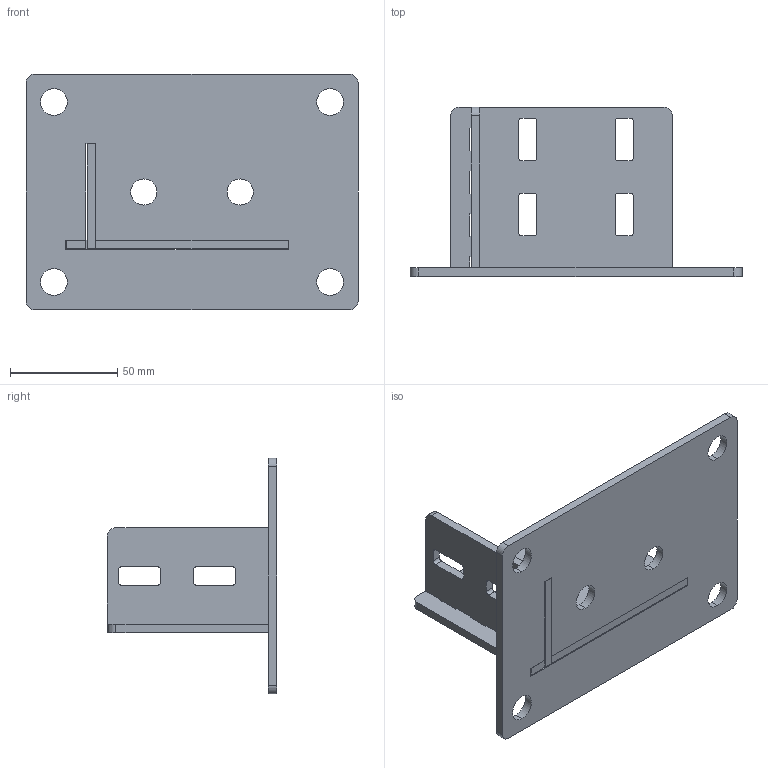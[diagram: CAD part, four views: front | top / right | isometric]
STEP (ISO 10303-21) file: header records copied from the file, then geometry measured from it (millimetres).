
FILE_DESCRIPTION (( 'STEP AP214' ), '1' );
FILE_NAME ('11452 - ñáîðêà.STEP', '2016-07-18T15:09:19', ( '' ), ( '' ), 'SwSTEP 2.0', 'SolidWorks 2014', '' );
FILE_SCHEMA (( 'AUTOMOTIVE_DESIGN' ));
Length unit declared in the file: millimetre
Products named in the file (7): 11452-3 - Ñòàëü 4ìì; 11452-2 - Ñòàëü 4ìì; 11452-1 - Ñòàëü 4ìì; 11452 - 鼁闉罻
Assembly tree (3 placements, depth 2):
  11452-3 - Ñòàëü 4ìì
  11452-2 - Ñòàëü 4ìì
  11452-1 - Ñòàëü 4ìì
  11452 - 鼁闉罻
    11452-1 - Ñòàëü 4ìì
    11452-2 - Ñòàëü 4ìì
    11452-3 - Ñòàëü 4ìì
Bounding box: 155 x 79 x 110 mm (x, y, z)
Volume: 105306 mm3; surface area: 61208.1 mm2
Topology: 3 solids, 3 shells, 123 faces, 351 edges, 234 vertices
Faces by surface type: plane 80, cylinder 43
Entity records: 4266 total; most frequent: CARTESIAN_POINT 715, ORIENTED_EDGE 702, DIRECTION 697, EDGE_CURVE 351, LINE 265, VECTOR 265, VERTEX_POINT 234, AXIS2_PLACEMENT_3D 216
